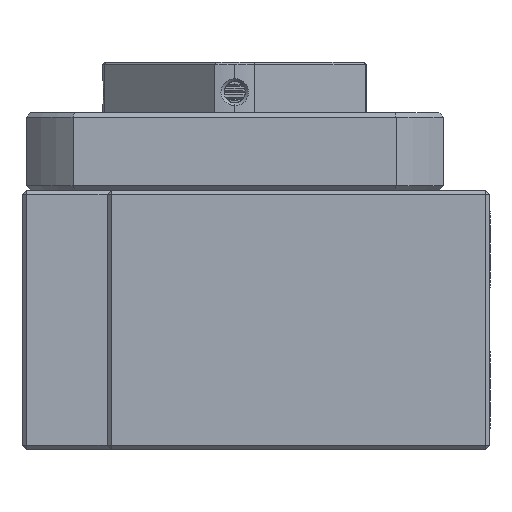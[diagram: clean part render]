
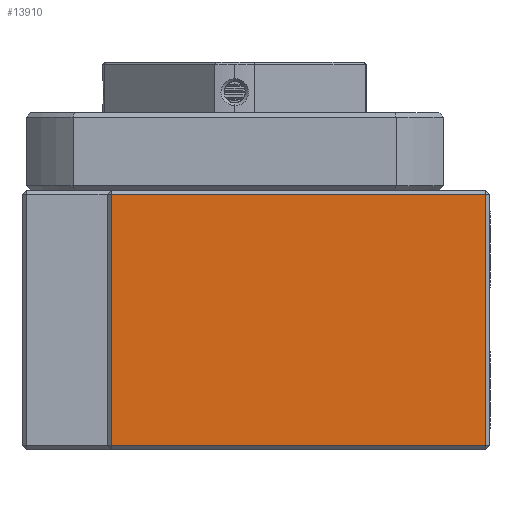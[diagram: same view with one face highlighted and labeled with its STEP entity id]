
A CAD part, left-side view. The second image highlights one B-rep face of the part: STEP entity #13910.
In plain terms, the highlighted planar face has unit normal (-1, 0, 0).
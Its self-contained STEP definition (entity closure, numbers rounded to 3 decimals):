
#2960 = CARTESIAN_POINT ( 'NONE',  ( -80., 89., 29.5 ) ) ;
#3139 = CARTESIAN_POINT ( 'NONE',  ( -80., 1., -29.5 ) ) ;
#3154 = DIRECTION ( 'NONE',  ( 0., 0., 1. ) ) ;
#3155 = VECTOR ( 'NONE', #3154, 1000. ) ;
#3156 = CARTESIAN_POINT ( 'NONE',  ( -80., 89., 29.5 ) ) ;
#3157 = LINE ( 'NONE', #3156, #3155 ) ;
#3173 = DIRECTION ( 'NONE',  ( 0., -1., 0. ) ) ;
#3174 = VECTOR ( 'NONE', #3173, 1000. ) ;
#3176 = CARTESIAN_POINT ( 'NONE',  ( -80., 1., 29.5 ) ) ;
#3177 = LINE ( 'NONE', #3176, #3174 ) ;
#3178 = CARTESIAN_POINT ( 'NONE',  ( -80., 1., 29.5 ) ) ;
#3184 = CARTESIAN_POINT ( 'NONE',  ( -80., 89., -29.5 ) ) ;
#3189 = DIRECTION ( 'NONE',  ( 0., -1., 0. ) ) ;
#3190 = VECTOR ( 'NONE', #3189, 1000. ) ;
#3191 = CARTESIAN_POINT ( 'NONE',  ( -80., 1., -29.5 ) ) ;
#3192 = LINE ( 'NONE', #3191, #3190 ) ;
#3301 = PLANE ( 'NONE',  #3335 ) ;
#3302 = FACE_OUTER_BOUND ( 'NONE', #14006, .T. ) ;
#3332 = DIRECTION ( 'NONE',  ( 0., 0., -1. ) ) ;
#3333 = DIRECTION ( 'NONE',  ( 1., 0., 0. ) ) ;
#3334 = CARTESIAN_POINT ( 'NONE',  ( -80., 1., 29.5 ) ) ;
#3335 = AXIS2_PLACEMENT_3D ( 'NONE', #3334, #3333, #3332 ) ;
#3485 = DIRECTION ( 'NONE',  ( 0., 0., -1. ) ) ;
#3486 = VECTOR ( 'NONE', #3485, 1000. ) ;
#3488 = LINE ( 'NONE', #3521, #3486 ) ;
#3521 = CARTESIAN_POINT ( 'NONE',  ( -80., 1., 29.5 ) ) ;
#13764 = VERTEX_POINT ( 'NONE', #2960 ) ;
#13837 = EDGE_CURVE ( 'NONE', #13856, #13764, #3157, .T. ) ;
#13847 = VERTEX_POINT ( 'NONE', #3139 ) ;
#13850 = EDGE_CURVE ( 'NONE', #13856, #13847, #3192, .T. ) ;
#13851 = ORIENTED_EDGE ( 'NONE', *, *, #13850, .T. ) ;
#13852 = ORIENTED_EDGE ( 'NONE', *, *, #13837, .F. ) ;
#13856 = VERTEX_POINT ( 'NONE', #3184 ) ;
#13859 = VERTEX_POINT ( 'NONE', #3178 ) ;
#13860 = EDGE_CURVE ( 'NONE', #13764, #13859, #3177, .T. ) ;
#13861 = ORIENTED_EDGE ( 'NONE', *, *, #13860, .F. ) ;
#13910 = ADVANCED_FACE ( 'NONE', ( #3302 ), #3301, .F. ) ;
#13941 = ORIENTED_EDGE ( 'NONE', *, *, #13986, .F. ) ;
#13986 = EDGE_CURVE ( 'NONE', #13859, #13847, #3488, .T. ) ;
#14006 = EDGE_LOOP ( 'NONE', ( #13861, #13852, #13851, #13941 ) ) ;
